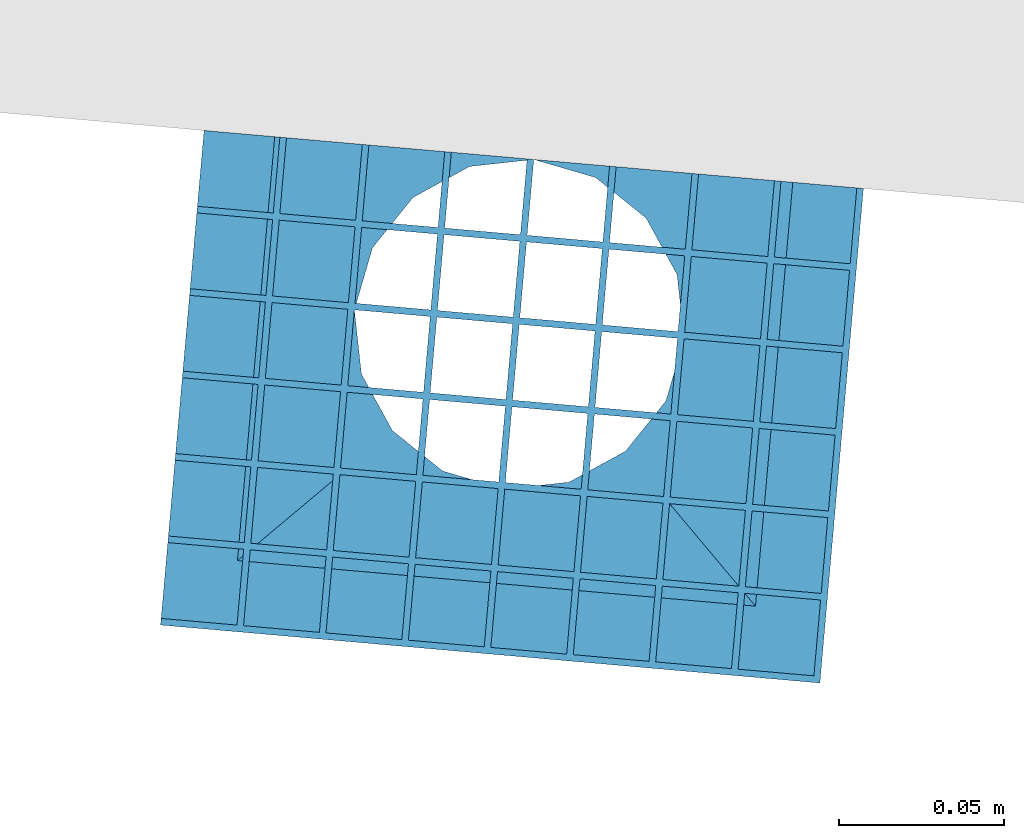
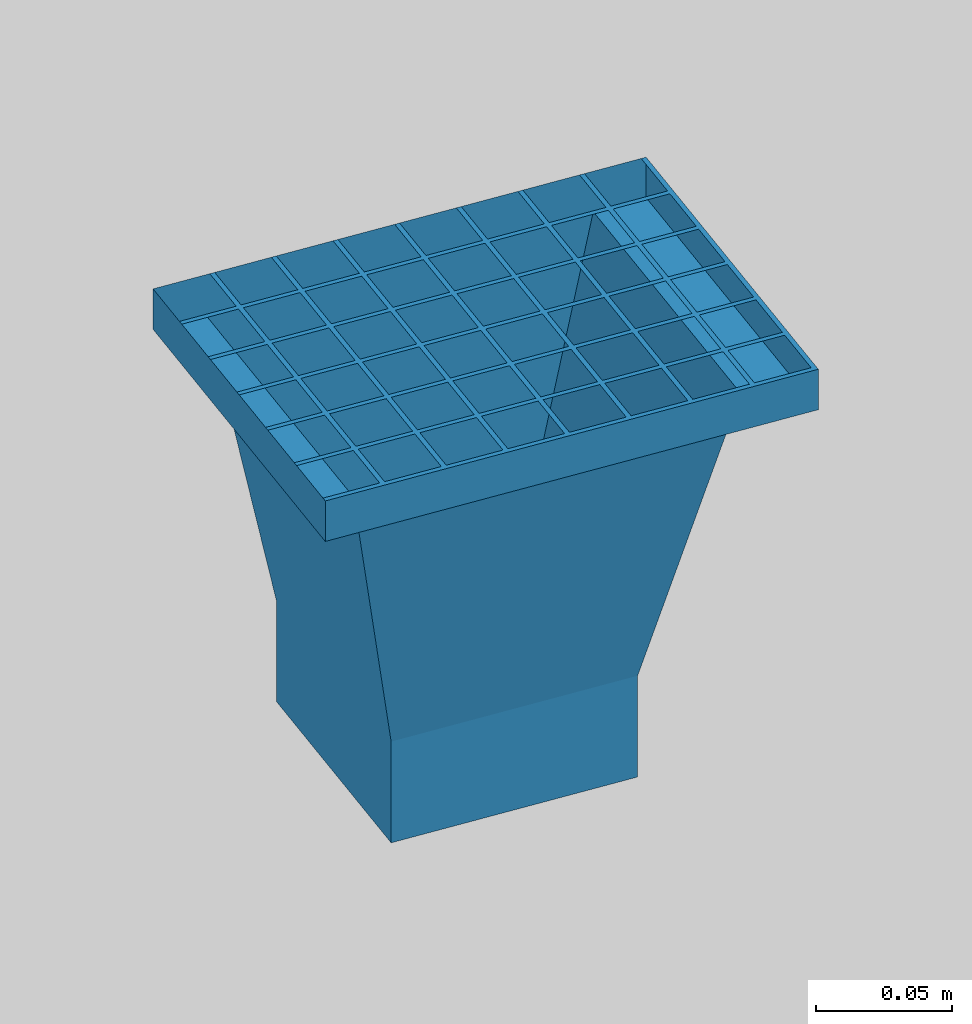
# One storey, part 86 of 164: 1 discrete accessory.
"""IFC2X3 building model written with IfcOpenShell, lengths in millimetres."""

from ifc_helpers import new_model, entity, si_unit, converted_unit, derived_unit, money_unit, direction, frame, origin_with_axes, place, context, subcontext, project, spatial, open_shell, surface_model, source, transform, mapped, type_object, element, save


model = new_model("IFC2X3")

# Units and contexts
model_context = context("Model", 3, precision=0.01, world=origin_with_axes(), true_north=direction((0.0, 1.0)))
body_context = subcontext(model_context, "Body", "Model", "MODEL_VIEW")
ifc_project = project(units=[si_unit("LENGTHUNIT", "METRE", prefix="MILLI"), si_unit("AREAUNIT", "SQUARE_METRE"), si_unit("VOLUMEUNIT", "CUBIC_METRE"), converted_unit("PLANEANGLEUNIT", "DEGREE", entity("IfcPlaneAngleMeasure", 0.0174532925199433), si_unit("PLANEANGLEUNIT", "RADIAN"), dimensions=[0, 0, 0, 0, 0, 0, 0]), money_unit("USD"), converted_unit("TIMEUNIT", "Year", entity("IfcTimeMeasure", 31557600.0), si_unit("TIMEUNIT", "SECOND"), dimensions=[0, 0, 1, 0, 0, 0, 0]), si_unit("MASSUNIT", "GRAM", prefix="KILO"), si_unit("THERMODYNAMICTEMPERATUREUNIT", "DEGREE_CELSIUS"), si_unit("LUMINOUSINTENSITYUNIT", "LUMEN"), si_unit("ENERGYUNIT", "JOULE", prefix="MEGA"), derived_unit("THERMALCONDUCTANCEUNIT", [(si_unit("POWERUNIT", "WATT"), 1), (si_unit("LENGTHUNIT", "METRE"), -1), (si_unit("THERMODYNAMICTEMPERATUREUNIT", "KELVIN"), -1)]), derived_unit("SPECIFICHEATCAPACITYUNIT", [(si_unit("ENERGYUNIT", "JOULE"), 1), (si_unit("MASSUNIT", "GRAM", prefix="KILO"), -1), (si_unit("THERMODYNAMICTEMPERATUREUNIT", "KELVIN"), -1)]), derived_unit("MASSDENSITYUNIT", [(si_unit("MASSUNIT", "GRAM", prefix="KILO"), 1), (si_unit("VOLUMEUNIT", "CUBIC_METRE"), -1)])], contexts=[model_context])

# Site, building, storey
site_placement = place(None, origin_with_axes())
site = spatial("IfcSite", under=ifc_project, at=site_placement, Name="Site", CompositionType="ELEMENT")
building_placement = place(site_placement, origin_with_axes())
building = spatial("IfcBuilding", under=site, at=building_placement, Name="Bâtiment", CompositionType="ELEMENT")
storey_placement = place(building_placement, frame((0.0, 0.0, 5750.0), z_axis=(0.0, 0.0, 1.0), x_axis=(1.0, 0.0, 0.0)))
storey = spatial("IfcBuildingStorey", under=building, at=storey_placement, Name="Etage1", CompositionType="ELEMENT", Elevation=5750.0)

# Discrete accessory
discrete_accessory_type = type_object("IfcDiscreteAccessoryType", Name="Boite à eau 27")
shared_shape = source(origin_with_axes(), body_context, "Body", "SurfaceModel", [
    surface_model("IfcShellBasedSurfaceModel", [(100.0, -100.0, 181.8181818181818), (100.0, -100.0, 200.0), (-100.0, -100.0, 200.0), (-100.0, -100.0, 181.8181818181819), (78.57142857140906, -78.57142857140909, 181.8181818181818), (-78.57142857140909, -78.5714285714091, 181.8181818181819), (49.99999999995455, -49.99999999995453, 45.45454545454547), (-49.99999999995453, -49.99999999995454, 45.45454545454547), (49.99999999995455, -49.99999999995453, 0.0), (-49.99999999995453, -49.99999999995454, 0.0)], [open_shell([[[0, 1, 2, 3]], [[4, 0, 3, 5]], [[6, 4, 5, 7]], [[8, 6, 7, 9]]])]),
    surface_model("IfcShellBasedSurfaceModel", [(100.0, 49.99999999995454, 200.0), (100.0, -100.0, 200.0), (100.0, -100.0, 181.8181818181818), (100.0, 49.99999999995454, 181.8181818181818), (78.57142857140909, -78.57142857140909, 181.8181818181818), (78.57142857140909, 49.99999999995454, 181.8181818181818), (49.99999999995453, -49.99999999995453, 45.45454545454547), (49.99999999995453, 49.99999999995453, 45.45454545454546), (49.99999999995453, -49.99999999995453, 0.0), (49.99999999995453, 49.99999999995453, 0.0)], [open_shell([[[0, 1, 2, 3]], [[3, 2, 4, 5]], [[5, 4, 6, 7]], [[7, 6, 8, 9]]])]),
    surface_model("IfcShellBasedSurfaceModel", [(-100.0, 49.99999999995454, 200.0), (-100.0, 49.99999999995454, 181.8181818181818), (-100.0, -100.0, 181.8181818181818), (-100.0, -100.0, 200.0), (-78.57142857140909, 49.99999999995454, 181.8181818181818), (-78.57142857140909, -78.57142857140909, 181.8181818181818), (-49.99999999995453, 49.99999999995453, 45.45454545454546), (-49.99999999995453, -49.99999999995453, 45.45454545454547), (-49.99999999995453, 49.99999999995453, 0.0), (-49.99999999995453, -49.99999999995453, 0.0)], [open_shell([[[0, 1, 2, 3]], [[1, 4, 5, 2]], [[4, 6, 7, 5]], [[6, 8, 9, 7]]])]),
    surface_model("IfcShellBasedSurfaceModel", [(100.0, 49.99999999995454, 200.0), (100.0, 49.99999999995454, 181.8181818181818), (78.57142857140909, 49.99999999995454, 181.8181818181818), (49.99999999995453, 49.99999999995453, 45.45454545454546), (49.99999999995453, 49.99999999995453, 0.0), (49.99999999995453, 49.99999999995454, 200.0)], [open_shell([[[0, 1, 2, 3, 4, 5]]])]),
    surface_model("IfcShellBasedSurfaceModel", [(-100.0, 49.99999999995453, 200.0), (-100.0, 49.99999999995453, 181.8181818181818), (-78.57142857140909, 49.99999999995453, 181.8181818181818), (-49.99999999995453, 49.99999999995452, 45.45454545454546), (-49.99999999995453, 49.99999999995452, 0.0), (-49.99999999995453, 49.99999999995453, 200.0)], [open_shell([[[0, 1, 2, 3, 4, 5]]])]),
    surface_model("IfcShellBasedSurfaceModel", [(-49.99999999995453, 49.99999999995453, 0.0), (-49.99999999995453, 49.99999999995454, 200.0), (49.99999999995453, 49.99999999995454, 200.0), (49.99999999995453, 49.99999999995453, 0.0)], [open_shell([[[0, 1, 2, 3]]])]),
    surface_model("IfcShellBasedSurfaceModel", [(49.99999999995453, -49.99999999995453, 0.0), (-49.99999999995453, -49.99999999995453, 0.0), (-49.99999999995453, 49.99999999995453, 0.0), (49.99999999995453, 49.99999999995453, 0.0), (-49.99999999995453, 0.0, 0.0), (-46.19397662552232, -19.13417161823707, 0.0), (-35.35533905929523, -35.3553390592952, 0.0), (-19.1341716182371, -46.19397662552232, 0.0), (0.0, -49.99999999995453, 0.0), (19.13417161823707, -46.19397662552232, 0.0), (35.35533905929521, -35.35533905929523, 0.0), (46.19397662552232, -19.13417161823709, 0.0), (49.99999999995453, 0.0, 0.0), (46.19397662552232, 19.13417161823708, 0.0), (35.35533905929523, 35.35533905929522, 0.0), (19.13417161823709, 46.19397662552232, 0.0), (0.0, 49.99999999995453, 0.0), (-19.13417161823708, 46.19397662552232, 0.0), (-35.35533905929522, 35.35533905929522, 0.0), (-46.19397662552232, 19.13417161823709, 0.0)], [open_shell([[[0, 1, 2, 3], [4, 5, 6, 7, 8, 9, 10, 11, 12, 13, 14, 15, 16, 17, 18, 19]]])]),
    surface_model("IfcShellBasedSurfaceModel", [(-75.00000000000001, -100.0, 200.0), (-77.00000000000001, -100.0, 200.0), (-77.00000000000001, 49.99999999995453, 200.0), (-75.00000000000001, 49.99999999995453, 200.0)], [open_shell([[[0, 1, 2, 3]]])]),
    surface_model("IfcShellBasedSurfaceModel", [(-50.00000000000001, -100.0, 200.0), (-52.00000000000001, -100.0, 200.0), (-52.00000000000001, 49.99999999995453, 200.0), (-50.00000000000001, 49.99999999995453, 200.0)], [open_shell([[[0, 1, 2, 3]]])]),
    surface_model("IfcShellBasedSurfaceModel", [(-25.00000000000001, -100.0, 200.0), (-27.00000000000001, -100.0, 200.0), (-27.00000000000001, 49.99999999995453, 200.0), (-25.00000000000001, 49.99999999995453, 200.0)], [open_shell([[[0, 1, 2, 3]]])]),
    surface_model("IfcShellBasedSurfaceModel", [(0.0, -100.0, 200.0), (-2.000000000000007, -100.0, 200.0), (-2.000000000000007, 49.99999999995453, 200.0), (0.0, 49.99999999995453, 200.0)], [open_shell([[[0, 1, 2, 3]]])]),
    surface_model("IfcShellBasedSurfaceModel", [(24.99999999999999, -100.0, 200.0), (22.99999999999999, -100.0, 200.0), (22.99999999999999, 49.99999999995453, 200.0), (24.99999999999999, 49.99999999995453, 200.0)], [open_shell([[[0, 1, 2, 3]]])]),
    surface_model("IfcShellBasedSurfaceModel", [(49.99999999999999, -100.0, 200.0), (47.99999999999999, -100.0, 200.0), (47.99999999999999, 49.99999999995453, 200.0), (49.99999999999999, 49.99999999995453, 200.0)], [open_shell([[[0, 1, 2, 3]]])]),
    surface_model("IfcShellBasedSurfaceModel", [(75.0, -100.0, 200.0), (73.0, -100.0, 200.0), (73.0, 49.99999999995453, 200.0), (75.0, 49.99999999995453, 200.0)], [open_shell([[[0, 1, 2, 3]]])]),
    surface_model("IfcShellBasedSurfaceModel", [(100.0, -100.0, 200.0), (98.0, -100.0, 200.0), (98.0, 49.99999999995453, 200.0), (100.0, 49.99999999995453, 200.0)], [open_shell([[[0, 1, 2, 3]]])]),
    surface_model("IfcShellBasedSurfaceModel", [(-100.0, 26.99999999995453, 200.0), (100.0, 26.99999999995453, 200.0), (100.0, 24.99999999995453, 200.0), (-100.0, 24.99999999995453, 200.0)], [open_shell([[[0, 1, 2, 3]]])]),
    surface_model("IfcShellBasedSurfaceModel", [(-100.0, 1.999999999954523, 200.0), (100.0, 1.999999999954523, 200.0), (100.0, 0.0, 200.0), (-100.0, 0.0, 200.0)], [open_shell([[[0, 1, 2, 3]]])]),
    surface_model("IfcShellBasedSurfaceModel", [(-100.0, -23.00000000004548, 200.0), (100.0, -23.00000000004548, 200.0), (100.0, -25.00000000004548, 200.0), (-100.0, -25.00000000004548, 200.0)], [open_shell([[[0, 1, 2, 3]]])]),
    surface_model("IfcShellBasedSurfaceModel", [(-100.0, -48.00000000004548, 200.0), (100.0, -48.00000000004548, 200.0), (100.0, -50.00000000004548, 200.0), (-100.0, -50.00000000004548, 200.0)], [open_shell([[[0, 1, 2, 3]]])]),
    surface_model("IfcShellBasedSurfaceModel", [(-100.0, -73.00000000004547, 200.0), (100.0, -73.00000000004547, 200.0), (100.0, -75.00000000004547, 200.0), (-100.0, -75.00000000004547, 200.0)], [open_shell([[[0, 1, 2, 3]]])]),
    surface_model("IfcShellBasedSurfaceModel", [(-100.0, -98.00000000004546, 200.0), (100.0, -98.00000000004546, 200.0), (100.0, -100.0000000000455, 200.0), (-100.0, -100.0000000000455, 200.0)], [open_shell([[[0, 1, 2, 3]]])]),
])
discrete_accessory_placement = place(storey_placement, frame((2254197.508486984, -610131.8121649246, -350.0000000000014), z_axis=(0.0, 0.0, 1.0), x_axis=(0.9961532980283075, -0.08762766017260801, 0.0)))
element("IfcDiscreteAccessory", 1, at=discrete_accessory_placement, inside=storey, type_object=discrete_accessory_type, Name="Obj.-319", context=body_context, shape_type="MappedRepresentation", body=[
    mapped(shared_shape, transform((0.0, 0.0, 0.0))),
])

save(model, "model.ifc")
